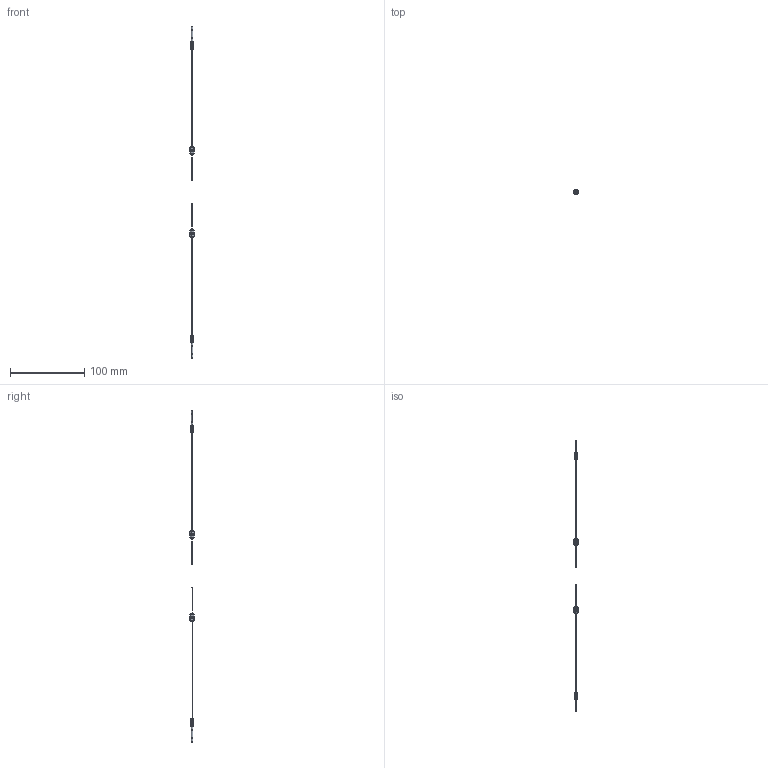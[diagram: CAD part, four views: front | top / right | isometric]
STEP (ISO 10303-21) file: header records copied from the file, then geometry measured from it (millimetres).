
FILE_DESCRIPTION (( 'STEP AP214' ), '1' );
FILE_NAME ('FTS1-320-05.STEP', '2019-06-18T02:43:42', ( '' ), ( '' ), 'SwSTEP 2.0', 'SolidWorks 2018', '' );
FILE_SCHEMA (( 'AUTOMOTIVE_DESIGN' ));
Length unit declared in the file: millimetre
Products named in the file (1): FTS1-320-05
Bounding box: 6.5 x 6.5 x 448 mm (x, y, z)
Volume: 975.4 mm3; surface area: 3045.2 mm2
Topology: 12 solids, 12 shells, 572 faces, 1472 edges, 940 vertices
Faces by surface type: cylinder 252, plane 212, cone 78, bspline 18, torus 12
Entity records: 29655 total; most frequent: CARTESIAN_POINT 16351, ORIENTED_EDGE 2944, DIRECTION 2504, EDGE_CURVE 1472, AXIS2_PLACEMENT_3D 965, VERTEX_POINT 940, EDGE_LOOP 608, LINE 574
